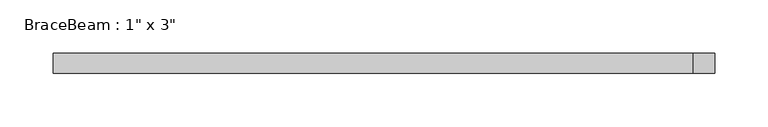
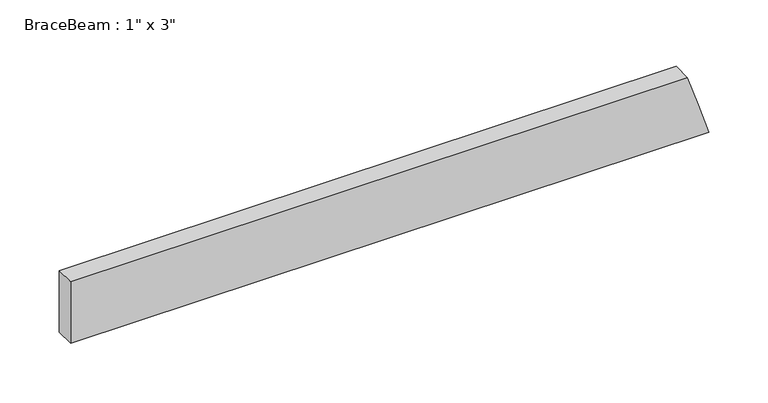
"""IFC4 building model written with IfcOpenShell, lengths in millimetres: beam geometry."""

import ifcopenshell
import ifcopenshell.guid

model = None  # the IFC model being written
_history = None  # IfcOwnerHistory: only IFC2X3 demands one
_inside = {}  # id of a spatial element -> (the spatial element, [elements in it])
_under = {}  # id of a project, library or spatial element -> (it, [spatial elements below it])
_declared = {}  # id of a project -> (the project, [libraries it declares])
_typed = {}  # id of a type object -> (the type object, [elements of that type])
_made_of = {}  # id of a material, layer set ... -> (it, [elements and type objects made of it])


def new_model(schema):
    """Start an empty IFC model of exactly this schema.

    Asked for "IFC4X3", IfcOpenShell would pick the latest addendum, in which some entities
    have other attributes; the version numbers below select the first issue.
    IFC2X3 requires an IfcOwnerHistory on every rooted entity: one is made here for all.
    """
    global model, _history
    if schema == "IFC4X3":
        model = ifcopenshell.file(schema_version=(4, 3, 0, 0))
    else:
        model = ifcopenshell.file(schema=schema)
    _inside.clear()
    _under.clear()
    _declared.clear()
    _typed.clear()
    _made_of.clear()
    _history = None
    if model.schema == "IFC2X3":
        org = make("IfcOrganization", Name="unknown")
        user = make(
            "IfcPersonAndOrganization",
            ThePerson=make("IfcPerson", FamilyName="unknown"),
            TheOrganization=org,
        )
        app = make(
            "IfcApplication",
            ApplicationDeveloper=org,
            Version="unknown",
            ApplicationFullName="unknown",
            ApplicationIdentifier="unknown",
        )
        _history = make(
            "IfcOwnerHistory",
            OwningUser=user,
            OwningApplication=app,
            ChangeAction="ADDED",
            CreationDate=0,
        )
    return model


def make(cls, **values):
    """One entity of the class cls with the attributes given. An attribute that is None is left unset."""
    return model.create_entity(
        cls, **{name: value for name, value in values.items() if value is not None}
    )


def rooted(cls, **values):
    """An entity with a GlobalId (a new one), such as an element, a storey or a relation."""
    return make(cls, GlobalId=ifcopenshell.guid.new(), OwnerHistory=_history, **values)


def si_unit(unit_type, name, prefix=None):
    """IfcSIUnit, for example si_unit("LENGTHUNIT", "METRE", prefix="MILLI")."""
    return make("IfcSIUnit", UnitType=unit_type, Prefix=prefix, Name=name)


def assignment(units):
    """IfcUnitAssignment: the units of a project."""
    return None if units is None else make("IfcUnitAssignment", Units=units)


def point(xyz):
    """IfcCartesianPoint."""
    return None if xyz is None else make("IfcCartesianPoint", Coordinates=xyz)


def direction(xyz):
    """IfcDirection."""
    return None if xyz is None else make("IfcDirection", DirectionRatios=xyz)


def frame(location, z_axis=None, x_axis=None):
    """IfcAxis2Placement3D, a coordinate frame: its origin and axes. An axis left out is left unset."""
    return make(
        "IfcAxis2Placement3D",
        Location=point(location),
        Axis=direction(z_axis),
        RefDirection=direction(x_axis),
    )


def origin():
    """The frame at (0, 0, 0) with its axes left unset."""
    return frame((0.0, 0.0, 0.0))


def place(relative_to, where):
    """IfcLocalPlacement: puts the frame where relative to a parent placement (None: the world)."""
    return make(
        "IfcLocalPlacement", PlacementRelTo=relative_to, RelativePlacement=where
    )


def context(
    kind, dimensions, precision=None, world=None, true_north=None, identifier=None
):
    """IfcGeometricRepresentationContext, for example the 3D "Model" context."""
    return make(
        "IfcGeometricRepresentationContext",
        ContextIdentifier=identifier,
        ContextType=kind,
        CoordinateSpaceDimension=dimensions,
        Precision=precision,
        WorldCoordinateSystem=world,
        TrueNorth=true_north,
    )


def project(units=None, contexts=None):
    """IfcProject with its units and contexts."""
    return rooted(
        "IfcProject",
        Name="project",
        RepresentationContexts=contexts,
        UnitsInContext=assignment(units),
    )


def spatial(cls, under=None, at=None, **own):
    """A site, building, storey or space (cls), placed at a placement, below another one or the project."""
    s = rooted(cls, ObjectPlacement=at, **own)
    if under is not None:
        _under.setdefault(under.id(), (under, []))[1].append(s)
    return s


def faces_of(points, faces, orient=None, outer=None):
    """IfcFace entities. A face is a list of loops; a loop is a list of indices into points, from 0.

    orient and outer hold one flag for each loop. By default every Orientation is true, the
    first loop of a face is its IfcFaceOuterBound and the others are IfcFaceBound.
    """
    made = []
    for i, loops in enumerate(faces):
        bounds = []
        for j, loop in enumerate(loops):
            is_outer = j == 0 if outer is None else outer[i][j]
            bounds.append(
                make(
                    "IfcFaceOuterBound" if is_outer else "IfcFaceBound",
                    Bound=make("IfcPolyLoop", Polygon=[points[k] for k in loop]),
                    Orientation=True if orient is None else orient[i][j],
                )
            )
        made.append(make("IfcFace", Bounds=bounds))
    return made


def faceted_brep(points, faces, orient=None, outer=None, voids=None):
    """IfcFacetedBrep: a solid bounded by flat faces; with voids (closed shells), ...WithVoids."""
    shared = [point(p) for p in points]
    hull = make("IfcClosedShell", CfsFaces=faces_of(shared, faces, orient, outer))
    if voids is None:
        return make("IfcFacetedBrep", Outer=hull)
    return make(
        "IfcFacetedBrepWithVoids",
        Outer=hull,
        Voids=[
            make(cls, CfsFaces=faces_of(shared, fs, o, b)) for cls, fs, o, b in voids
        ],
    )


def shape(context_of_items, identifier, shape_type, items):
    """IfcShapeRepresentation: the items that make up one representation, for example the "Body"."""
    return make(
        "IfcShapeRepresentation",
        ContextOfItems=context_of_items,
        RepresentationIdentifier=identifier,
        RepresentationType=shape_type,
        Items=items,
    )


def source(mapping_origin, context_of_items, identifier, shape_type, items):
    """IfcRepresentationMap: a shape defined once, which mapped items show again and again."""
    return make(
        "IfcRepresentationMap",
        MappingOrigin=mapping_origin,
        MappedRepresentation=shape(context_of_items, identifier, shape_type, items),
    )


def transform(
    local_origin,
    x_axis=None,
    y_axis=None,
    z_axis=None,
    scale=None,
    scale2=None,
    scale3=None,
    uniform=True,
):
    """IfcCartesianTransformationOperator3D, or its non-uniform kind. x_axis, y_axis, z_axis: its Axis1, 2, 3."""
    if uniform:
        return make(
            "IfcCartesianTransformationOperator3D",
            Axis1=direction(x_axis),
            Axis2=direction(y_axis),
            LocalOrigin=point(local_origin),
            Scale=scale,
            Axis3=direction(z_axis),
        )
    return make(
        "IfcCartesianTransformationOperator3DnonUniform",
        Axis1=direction(x_axis),
        Axis2=direction(y_axis),
        LocalOrigin=point(local_origin),
        Scale=scale,
        Axis3=direction(z_axis),
        Scale2=scale2,
        Scale3=scale3,
    )


def mapped(mapping_source, mapping_target):
    """IfcMappedItem: shows the shape of a source again, moved by a transform."""
    return make(
        "IfcMappedItem", MappingSource=mapping_source, MappingTarget=mapping_target
    )


def made_of(thing, what):
    """Note that an element or type object is made of a material, layer set ...; save() writes the relation."""
    if what is not None:
        _made_of.setdefault(what.id(), (what, []))[1].append(thing)
    return thing


def element(
    cls,
    number,
    at=None,
    inside=None,
    cuts=None,
    type_object=None,
    material=None,
    context=None,
    identifier="Body",
    shape_type=None,
    held_by="IfcProductDefinitionShape",
    body=None,
    shapes=None,
    **own,
):
    """One element of the class cls, such as IfcWall. Its Tag is "e" and its number.

    at: its placement. inside: the storey or other place that contains it. cuts: it is an
    opening in that element (IfcRelVoidsElement). A single representation is given by context,
    identifier, shape_type and body (its items); several are given by shapes. held_by: the class
    of the entity that holds the representations. save() writes the other relations.
    """
    e = rooted(cls, Tag="e%d" % number, ObjectPlacement=at, **own)
    if body is not None:
        shapes = [shape(context, identifier, shape_type, body)]
    if shapes is not None:
        e.Representation = make(held_by, Representations=shapes)
    if inside is not None:
        _inside.setdefault(inside.id(), (inside, []))[1].append(e)
    if cuts is not None:
        rooted(
            "IfcRelVoidsElement", RelatingBuildingElement=cuts, RelatedOpeningElement=e
        )
    if type_object is not None:
        _typed.setdefault(type_object.id(), (type_object, []))[1].append(e)
    return made_of(e, material)


def aggregate(whole, parts):
    """IfcRelAggregates: a whole, such as a stair, and the parts it consists of."""
    return rooted("IfcRelAggregates", RelatingObject=whole, RelatedObjects=parts)


def save(model, path):
    """Write the relations noted so far, then the file.

    IfcRelAggregates (storeys below a building ...), IfcRelContainedInSpatialStructure (elements
    in a storey), IfcRelDefinesByType, IfcRelAssociatesMaterial and IfcRelDeclares: one each for
    every whole, place, type object, material and project.
    """
    for whole, parts in _under.values():
        aggregate(whole, parts)
    for where, things in _inside.values():
        rooted(
            "IfcRelContainedInSpatialStructure",
            RelatedElements=things,
            RelatingStructure=where,
        )
    for kind, things in _typed.values():
        rooted("IfcRelDefinesByType", RelatedObjects=things, RelatingType=kind)
    for what, things in _made_of.values():
        rooted("IfcRelAssociatesMaterial", RelatedObjects=things, RelatingMaterial=what)
    for by, libraries in _declared.values():
        rooted("IfcRelDeclares", RelatingContext=by, RelatedDefinitions=libraries)
    model.write(path)


def beam_63583358(model_context):
    return source(origin(), model_context, "Body", "Brep", [
        faceted_brep([(-306.5758439, 9.525, -31.75), (315.2903214, 9.525, -31.75), (315.2903214, -9.525, -31.75), (-306.5758439, -9.525, -31.75), (304.9274742, -9.525, 0.0), (294.5646269, -9.525, 31.75), (-306.5758439, -9.525, 31.75), (294.5646269, 9.525, 31.75), (-306.5758439, 9.525, 31.75), (304.9274742, 9.525, 0.0)], [[[0, 1, 2, 3]], [[3, 2, 4, 5, 6]], [[6, 5, 7, 8]], [[8, 7, 9, 1, 0]], [[8, 0, 3, 6]], [[5, 4, 2, 1, 9, 7]]]),
    ])


if __name__ == "__main__":
    model = new_model("IFC4")
    model_context = context("Model", 3, world=origin())
    ifc_project = project(units=[si_unit("LENGTHUNIT", "METRE", prefix="MILLI")], contexts=[model_context])
    site = spatial("IfcSite", under=ifc_project)
    building = spatial("IfcBuilding", under=site)
    placement = place(None, origin())
    beam_shape = beam_63583358(model_context)
    element("IfcBeam", 1, ObjectType="BraceBeam : 1\" x 3\"", at=placement, inside=building, context=model_context, shape_type="MappedRepresentation", body=[
        mapped(beam_shape, transform((0.0, 0.0, 0.0), x_axis=(1.0, 0.0, 0.0), y_axis=(0.0, 1.0, 0.0), z_axis=(0.0, 0.0, 1.0))),
    ])
    save(model, "model.ifc")
